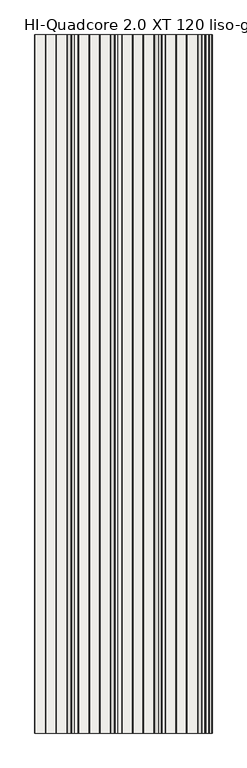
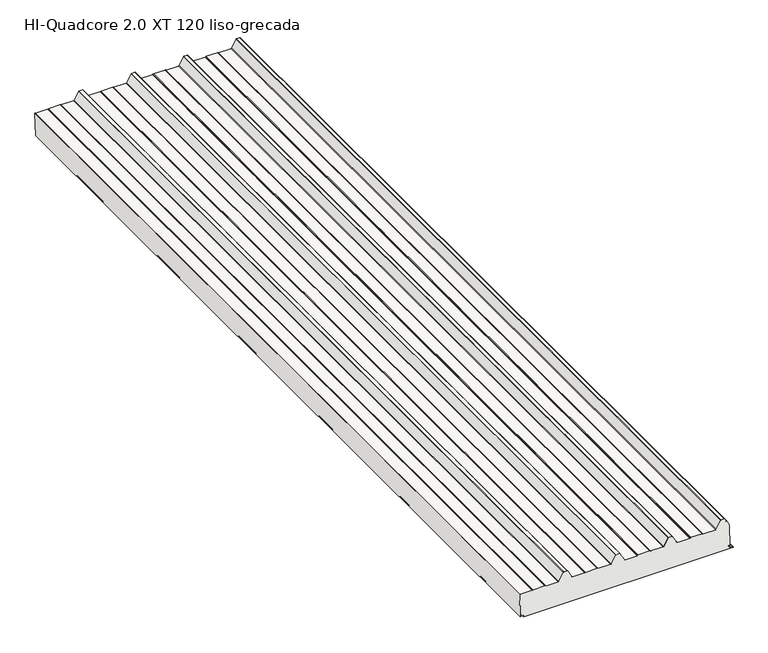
"""IFC4 building model written with IfcOpenShell, lengths in millimetres: slab geometry, Panel_HI_QuadCore 2.0 XT-XT DUAL_liso-grecada : HI-Quadcore 2.0 XT 120 liso-grecada."""

from ifc_helpers import new_model, si_unit, frame, origin, place, context, project, spatial, polyline, circle_curve, source, transform, mapped, element, save
from ifc_brep_helpers import plane_surface, cylinder_surface, revolved_surface, advanced_brep


def hi_quadcore_2_0_xt_120_liso_grecada_2a128a65(model_context):
    return source(origin(), model_context, "Body", "AdvancedBrep", [
        advanced_brep(
        [(531.036551, 0.0, 121.2667387), (516.0442453, 0.0, 147.9197266), (516.033201, 0.0, 145.939301), (515.1031555, 0.0, 144.3282068), (514.4103128, 0.0, 144.7281681), (515.3403583, 0.0, 146.3392623), (515.3469849, 0.0, 147.5275176), (509.4120152, 0.0, 158.0785747), (507.4945491, 0.0, 159.2), (492.1184247, 0.0, 159.2), (490.1940602, 0.0, 158.0662182), (469.7447946, 0.0, 121.1583504), (466.4208923, 0.0, 119.2), (407.5510443, 0.0, 119.2), (405.671532, 0.0, 119.6973596), (403.5370944, 0.0, 120.912055), (402.4489557, 0.0, 121.2), (347.5510443, 0.0, 121.2), (346.4629056, 0.0, 120.912055), (344.328468, 0.0, 119.6973596), (342.4489557, 0.0, 119.2), (284.2545425, 0.0, 119.2), (280.9425554, 0.0, 121.1370073), (260.1629237, 0.0, 158.0785747), (258.2454575, 0.0, 159.2), (241.7545425, 0.0, 159.2), (239.8370763, 0.0, 158.0785747), (219.0574446, 0.0, 121.1370073), (215.7454575, 0.0, 119.2), (157.5510443, 0.0, 119.2), (155.671532, 0.0, 119.6973596), (153.5370944, 0.0, 120.912055), (152.4489557, 0.0, 121.2), (97.5510443, 0.0, 121.2), (96.4629056, 0.0, 120.912055), (94.328468, 0.0, 119.6973596), (92.4489557, 0.0, 119.2), (34.2545425, 0.0, 119.2), (30.9425554, 0.0, 121.1370073), (10.1629237, 0.0, 158.0785747), (8.2454575, 0.0, 159.2), (-8.2454575, 0.0, 159.2), (-10.1629237, 0.0, 158.0785747), (-30.9425554, 0.0, 121.1370073), (-34.2545425, 0.0, 119.2), (-92.4489557, 0.0, 119.2), (-94.328468, 0.0, 119.6973596), (-96.4629056, 0.0, 120.912055), (-97.5510443, 0.0, 121.2), (-152.4489557, 0.0, 121.2), (-153.5370944, 0.0, 120.912055), (-155.671532, 0.0, 119.6973596), (-157.5510443, 0.0, 119.2), (-215.7454575, 0.0, 119.2), (-219.0574446, 0.0, 121.1370073), (-239.8370763, 0.0, 158.0785747), (-241.7545425, 0.0, 159.2), (-258.2454575, 0.0, 159.2), (-260.1629237, 0.0, 158.0785747), (-280.9425554, 0.0, 121.1370073), (-284.2545425, 0.0, 119.2), (-342.4489557, 0.0, 119.2), (-344.328468, 0.0, 119.6973596), (-346.4629056, 0.0, 120.912055), (-347.5510443, 0.0, 121.2), (-402.4489557, 0.0, 121.2), (-403.5370944, 0.0, 120.912055), (-405.671532, 0.0, 119.6973596), (-407.5510443, 0.0, 119.2), (-465.3454575, 0.0, 119.2), (-468.6947225, 0.0, 121.2048889), (-465.5377778, 0.0, 7.0308356), (-464.1542269, 0.0, 7.2414508), (-464.1543582, 0.0, 11.9758652), (-463.5686109, 0.0, 13.390095), (-461.4624671, 0.0, 15.4963556), (-460.8967817, 0.0, 14.9306702), (-463.0029098, 0.0, 12.8244253), (-463.3543582, 0.0, 11.9758874), (-463.3542572, 0.0, 8.3337062), (-462.2418956, 0.0, 7.1369439), (-451.8231384, 0.0, 6.3740035), (-449.2967368, 0.0, 3.5874804), (-449.2966921, 0.0, 1.9756233), (-448.0966592, 0.0, 0.7756565), (547.9136557, 0.0, 0.8032689), (549.1046782, 0.0, 2.0032686), (549.104653, 0.0, 2.9118044), (547.9581323, 0.0, 4.1105786), (536.1323972, 0.0, 5.0061949), (533.5438482, 0.0, 7.7981217), (533.5455151, 0.0, 11.7461321), (533.1910778, 0.0, 12.5938038), (531.7779905, 0.0, 14.013532), (532.3436759, 0.0, 14.5792175), (533.757913, 0.0, 13.1650588), (-468.6947225, 4000.0, 121.2048889), (-465.3454575, 4000.0, 119.2), (-407.5510443, 4000.0, 119.2), (-405.671532, 4000.0, 119.6973596), (-403.5370944, 4000.0, 120.912055), (-402.4489557, 4000.0, 121.2), (-347.5510443, 4000.0, 121.2), (-346.4629056, 4000.0, 120.912055), (-344.328468, 4000.0, 119.6973596), (-342.4489557, 4000.0, 119.2), (-284.2545425, 4000.0, 119.2), (-280.9425554, 4000.0, 121.1370073), (-260.1629237, 4000.0, 158.0785747), (-258.2454575, 4000.0, 159.2), (-241.7545425, 4000.0, 159.2), (-239.8370763, 4000.0, 158.0785747), (-219.0574446, 4000.0, 121.1370073), (-215.7454575, 4000.0, 119.2), (-157.5510443, 4000.0, 119.2), (-155.671532, 4000.0, 119.6973596), (-153.5370944, 4000.0, 120.912055), (-152.4489557, 4000.0, 121.2), (-97.5510443, 4000.0, 121.2), (-96.4629056, 4000.0, 120.912055), (-94.328468, 4000.0, 119.6973596), (-92.4489557, 4000.0, 119.2), (-34.2545425, 4000.0, 119.2), (-30.9425554, 4000.0, 121.1370073), (-10.1629237, 4000.0, 158.0785747), (-8.2454575, 4000.0, 159.2), (8.2454575, 4000.0, 159.2), (10.1629237, 4000.0, 158.0785747), (30.9425554, 4000.0, 121.1370073), (34.2545425, 4000.0, 119.2), (92.4489557, 4000.0, 119.2), (94.328468, 4000.0, 119.6973596), (96.4629056, 4000.0, 120.912055), (97.5510443, 4000.0, 121.2), (152.4489557, 4000.0, 121.2), (153.5370944, 4000.0, 120.912055), (155.671532, 4000.0, 119.6973596), (157.5510443, 4000.0, 119.2), (215.7454575, 4000.0, 119.2), (219.0574446, 4000.0, 121.1370073), (239.8370763, 4000.0, 158.0785747), (241.7545425, 4000.0, 159.2), (258.2454575, 4000.0, 159.2), (260.1629237, 4000.0, 158.0785747), (280.9425554, 4000.0, 121.1370073), (284.2545425, 4000.0, 119.2), (342.4489557, 4000.0, 119.2), (344.328468, 4000.0, 119.6973596), (346.4629056, 4000.0, 120.912055), (347.5510443, 4000.0, 121.2), (402.4489557, 4000.0, 121.2), (403.5370944, 4000.0, 120.912055), (405.671532, 4000.0, 119.6973596), (407.5510443, 4000.0, 119.2), (466.4208923, 4000.0, 119.2), (469.7447946, 4000.0, 121.1583504), (490.1940602, 4000.0, 158.0662182), (492.1184247, 4000.0, 159.2), (507.4945491, 4000.0, 159.2), (509.4120152, 4000.0, 158.0785747), (515.3469849, 4000.0, 147.5275176), (515.3403583, 4000.0, 146.3392623), (514.4103128, 4000.0, 144.7281681), (515.1031555, 4000.0, 144.3282068), (516.033201, 4000.0, 145.939301), (516.0442453, 4000.0, 147.9197266), (531.036551, 4000.0, 121.2667387), (533.757913, 4000.0, 13.1650588), (532.3436759, 4000.0, 14.5792175), (531.7779905, 4000.0, 14.013532), (533.1910778, 4000.0, 12.5938038), (533.5455151, 4000.0, 11.7461321), (533.5438482, 4000.0, 7.7981217), (536.1323972, 4000.0, 5.0061949), (547.9581323, 4000.0, 4.1105786), (549.104653, 4000.0, 2.9118044), (549.1046782, 4000.0, 2.0032686), (547.9136557, 4000.0, 0.8032689), (-448.0966592, 4000.0, 0.7756565), (-449.2966921, 4000.0, 1.9756233), (-449.2967368, 4000.0, 3.5874804), (-451.8231384, 4000.0, 6.3740035), (-462.2418956, 4000.0, 7.1369439), (-463.3542572, 4000.0, 8.3337062), (-463.3543582, 4000.0, 11.9758874), (-463.0029098, 4000.0, 12.8244253), (-460.8967817, 4000.0, 14.9306702), (-461.4624671, 4000.0, 15.4963556), (-463.5686109, 4000.0, 13.390095), (-464.1543582, 4000.0, 11.9758652), (-464.1542269, 4000.0, 7.2414508), (-465.5377778, 4000.0, 7.0308356)],
        [
            (0, 1),
            (1, 2, circle_curve(frame((514.3010942, 0.0, 146.9392041), z_axis=(0.0, 1.0, 0.0), x_axis=(1.0, 0.0, 0.0)), 2.0)),
            (2, 3),
            (3, 4),
            (4, 5),
            (5, 6, circle_curve(frame((514.3010942, 0.0, 146.9392041), z_axis=(0.0, -1.0, 0.0), x_axis=(1.0, 0.0, 0.0)), 1.2)),
            (6, 7),
            (7, 8, circle_curve(frame((507.4945491, 0.0, 157.0), z_axis=(0.0, -1.0, 0.0), x_axis=(1.0, 0.0, 0.0)), 2.2)),
            (8, 9),
            (9, 10, circle_curve(frame((492.1184247, 0.0, 157.0), z_axis=(0.0, -1.0, 0.0), x_axis=(1.0, 0.0, 0.0)), 2.2)),
            (10, 11),
            (11, 12, circle_curve(frame((466.4208923, 0.0, 123.0), z_axis=(0.0, 1.0, 0.0), x_axis=(1.0, 0.0, 0.0)), 3.8)),
            (12, 13),
            (13, 14, circle_curve(frame((407.5510443, 0.0, 123.0), z_axis=(0.0, 1.0, 0.0), x_axis=(1.0, 0.0, 0.0)), 3.8)),
            (14, 15),
            (15, 16, circle_curve(frame((402.4489557, 0.0, 119.0), z_axis=(0.0, -1.0, 0.0), x_axis=(1.0, 0.0, 0.0)), 2.2)),
            (16, 17),
            (17, 18, circle_curve(frame((347.5510443, 0.0, 119.0), z_axis=(0.0, -1.0, 0.0), x_axis=(1.0, 0.0, 0.0)), 2.2)),
            (18, 19),
            (19, 20, circle_curve(frame((342.4489557, 0.0, 123.0), z_axis=(0.0, 1.0, 0.0), x_axis=(1.0, 0.0, 0.0)), 3.8)),
            (20, 21),
            (21, 22, circle_curve(frame((284.2545425, 0.0, 123.0), z_axis=(0.0, 1.0, 0.0), x_axis=(1.0, 0.0, 0.0)), 3.8)),
            (22, 23),
            (23, 24, circle_curve(frame((258.2454575, 0.0, 157.0), z_axis=(0.0, -1.0, 0.0), x_axis=(1.0, 0.0, 0.0)), 2.2)),
            (24, 25),
            (25, 26, circle_curve(frame((241.7545425, 0.0, 157.0), z_axis=(0.0, -1.0, 0.0), x_axis=(1.0, 0.0, 0.0)), 2.2)),
            (26, 27),
            (27, 28, circle_curve(frame((215.7454575, 0.0, 123.0), z_axis=(0.0, 1.0, 0.0), x_axis=(1.0, 0.0, 0.0)), 3.8)),
            (28, 29),
            (29, 30, circle_curve(frame((157.5510443, 0.0, 123.0), z_axis=(0.0, 1.0, 0.0), x_axis=(1.0, 0.0, 0.0)), 3.8)),
            (30, 31),
            (31, 32, circle_curve(frame((152.4489557, 0.0, 119.0), z_axis=(0.0, -1.0, 0.0), x_axis=(1.0, 0.0, 0.0)), 2.2)),
            (32, 33),
            (33, 34, circle_curve(frame((97.5510443, 0.0, 119.0), z_axis=(0.0, -1.0, 0.0), x_axis=(1.0, 0.0, 0.0)), 2.2)),
            (34, 35),
            (35, 36, circle_curve(frame((92.4489557, 0.0, 123.0), z_axis=(0.0, 1.0, 0.0), x_axis=(1.0, 0.0, 0.0)), 3.8)),
            (36, 37),
            (37, 38, circle_curve(frame((34.2545425, 0.0, 123.0), z_axis=(0.0, 1.0, 0.0), x_axis=(1.0, 0.0, 0.0)), 3.8)),
            (38, 39),
            (39, 40, circle_curve(frame((8.2454575, 0.0, 157.0), z_axis=(0.0, -1.0, 0.0), x_axis=(1.0, 0.0, 0.0)), 2.2)),
            (40, 41),
            (41, 42, circle_curve(frame((-8.2454575, 0.0, 157.0), z_axis=(0.0, -1.0, 0.0), x_axis=(1.0, 0.0, 0.0)), 2.2)),
            (42, 43),
            (43, 44, circle_curve(frame((-34.2545425, 0.0, 123.0), z_axis=(0.0, 1.0, 0.0), x_axis=(1.0, 0.0, 0.0)), 3.8)),
            (44, 45),
            (45, 46, circle_curve(frame((-92.4489557, 0.0, 123.0), z_axis=(0.0, 1.0, 0.0), x_axis=(1.0, 0.0, 0.0)), 3.8)),
            (46, 47),
            (47, 48, circle_curve(frame((-97.5510443, 0.0, 119.0), z_axis=(0.0, -1.0, 0.0), x_axis=(1.0, 0.0, 0.0)), 2.2)),
            (48, 49),
            (49, 50, circle_curve(frame((-152.4489557, 0.0, 119.0), z_axis=(0.0, -1.0, 0.0), x_axis=(1.0, 0.0, 0.0)), 2.2)),
            (50, 51),
            (51, 52, circle_curve(frame((-157.5510443, 0.0, 123.0), z_axis=(0.0, 1.0, 0.0), x_axis=(1.0, 0.0, 0.0)), 3.8)),
            (52, 53),
            (53, 54, circle_curve(frame((-215.7454575, 0.0, 123.0), z_axis=(0.0, 1.0, 0.0), x_axis=(1.0, 0.0, 0.0)), 3.8)),
            (54, 55),
            (55, 56, circle_curve(frame((-241.7545425, 0.0, 157.0), z_axis=(0.0, -1.0, 0.0), x_axis=(1.0, 0.0, 0.0)), 2.2)),
            (56, 57),
            (57, 58, circle_curve(frame((-258.2454575, 0.0, 157.0), z_axis=(0.0, -1.0, 0.0), x_axis=(1.0, 0.0, 0.0)), 2.2)),
            (58, 59),
            (59, 60, circle_curve(frame((-284.2545425, 0.0, 123.0), z_axis=(0.0, 1.0, 0.0), x_axis=(1.0, 0.0, 0.0)), 3.8)),
            (60, 61),
            (61, 62, circle_curve(frame((-342.4489557, 0.0, 123.0), z_axis=(0.0, 1.0, 0.0), x_axis=(1.0, 0.0, 0.0)), 3.8)),
            (62, 63),
            (63, 64, circle_curve(frame((-347.5510443, 0.0, 119.0), z_axis=(0.0, -1.0, 0.0), x_axis=(1.0, 0.0, 0.0)), 2.2)),
            (64, 65),
            (65, 66, circle_curve(frame((-402.4489557, 0.0, 119.0), z_axis=(0.0, -1.0, 0.0), x_axis=(1.0, 0.0, 0.0)), 2.2)),
            (66, 67),
            (67, 68, circle_curve(frame((-407.5510443, 0.0, 123.0), z_axis=(0.0, 1.0, 0.0), x_axis=(1.0, 0.0, 0.0)), 3.8)),
            (68, 69),
            (69, 70, circle_curve(frame((-465.3454575, 0.0, 123.0), z_axis=(0.0, 1.0, 0.0), x_axis=(1.0, 0.0, 0.0)), 3.8)),
            (70, 71),
            (71, 72),
            (72, 73),
            (73, 74, circle_curve(frame((-462.1543582, 0.0, 11.9759207), z_axis=(0.0, 1.0, 0.0), x_axis=(1.0, 0.0, 0.0)), 2.0)),
            (74, 75),
            (75, 76),
            (76, 77),
            (77, 78, circle_curve(frame((-462.1543582, 0.0, 11.9759207), z_axis=(0.0, -1.0, 0.0), x_axis=(1.0, 0.0, 0.0)), 1.2)),
            (78, 79),
            (79, 80, circle_curve(frame((-462.1542572, 0.0, 8.3337394), z_axis=(0.0, -1.0, 0.0), x_axis=(1.0, 0.0, 0.0)), 1.2)),
            (80, 81),
            (81, 82, circle_curve(frame((-452.0967368, 0.0, 3.5874027), z_axis=(0.0, 1.0, 0.0), x_axis=(1.0, 0.0, 0.0)), 2.8)),
            (82, 83),
            (83, 84, circle_curve(frame((-448.0966924, 0.0, 1.9756562), z_axis=(0.0, -1.0, 0.0), x_axis=(1.0, 0.0, 0.0)), 1.1999997)),
            (84, 85),
            (85, 86, circle_curve(frame((547.9046782, 0.0, 2.0032353), z_axis=(0.0, -1.0, 0.0), x_axis=(1.0, 0.0, 0.0)), 1.2)),
            (86, 87),
            (87, 88, circle_curve(frame((547.9046533, 0.0, 2.9117711), z_axis=(0.0, -1.0, 0.0), x_axis=(1.0, 0.0, 0.0)), 1.1999997)),
            (88, 89),
            (89, 90, circle_curve(frame((536.3438482, 0.0, 7.7981993), z_axis=(0.0, 1.0, 0.0), x_axis=(1.0, 0.0, 0.0)), 2.8)),
            (90, 91),
            (91, 92, circle_curve(frame((532.3429645, 0.0, 11.7412455), z_axis=(0.0, -1.0, 0.0), x_axis=(1.0, 0.0, 0.0)), 1.2025605)),
            (92, 93),
            (93, 94),
            (94, 95),
            (95, 0),
            (96, 97, circle_curve(frame((-465.3454575, 4000.0, 123.0), z_axis=(0.0, -1.0, 0.0), x_axis=(1.0, 0.0, 0.0)), 3.8)),
            (97, 98),
            (98, 99, circle_curve(frame((-407.5510443, 4000.0, 123.0), z_axis=(0.0, -1.0, 0.0), x_axis=(1.0, 0.0, 0.0)), 3.8)),
            (99, 100),
            (100, 101, circle_curve(frame((-402.4489557, 4000.0, 119.0), z_axis=(0.0, 1.0, 0.0), x_axis=(1.0, 0.0, 0.0)), 2.2)),
            (101, 102),
            (102, 103, circle_curve(frame((-347.5510443, 4000.0, 119.0), z_axis=(0.0, 1.0, 0.0), x_axis=(1.0, 0.0, 0.0)), 2.2)),
            (103, 104),
            (104, 105, circle_curve(frame((-342.4489557, 4000.0, 123.0), z_axis=(0.0, -1.0, 0.0), x_axis=(1.0, 0.0, 0.0)), 3.8)),
            (105, 106),
            (106, 107, circle_curve(frame((-284.2545425, 4000.0, 123.0), z_axis=(0.0, -1.0, 0.0), x_axis=(1.0, 0.0, 0.0)), 3.8)),
            (107, 108),
            (108, 109, circle_curve(frame((-258.2454575, 4000.0, 157.0), z_axis=(0.0, 1.0, 0.0), x_axis=(1.0, 0.0, 0.0)), 2.2)),
            (109, 110),
            (110, 111, circle_curve(frame((-241.7545425, 4000.0, 157.0), z_axis=(0.0, 1.0, 0.0), x_axis=(1.0, 0.0, 0.0)), 2.2)),
            (111, 112),
            (112, 113, circle_curve(frame((-215.7454575, 4000.0, 123.0), z_axis=(0.0, -1.0, 0.0), x_axis=(1.0, 0.0, 0.0)), 3.8)),
            (113, 114),
            (114, 115, circle_curve(frame((-157.5510443, 4000.0, 123.0), z_axis=(0.0, -1.0, 0.0), x_axis=(1.0, 0.0, 0.0)), 3.8)),
            (115, 116),
            (116, 117, circle_curve(frame((-152.4489557, 4000.0, 119.0), z_axis=(0.0, 1.0, 0.0), x_axis=(1.0, 0.0, 0.0)), 2.2)),
            (117, 118),
            (118, 119, circle_curve(frame((-97.5510443, 4000.0, 119.0), z_axis=(0.0, 1.0, 0.0), x_axis=(1.0, 0.0, 0.0)), 2.2)),
            (119, 120),
            (120, 121, circle_curve(frame((-92.4489557, 4000.0, 123.0), z_axis=(0.0, -1.0, 0.0), x_axis=(1.0, 0.0, 0.0)), 3.8)),
            (121, 122),
            (122, 123, circle_curve(frame((-34.2545425, 4000.0, 123.0), z_axis=(0.0, -1.0, 0.0), x_axis=(1.0, 0.0, 0.0)), 3.8)),
            (123, 124),
            (124, 125, circle_curve(frame((-8.2454575, 4000.0, 157.0), z_axis=(0.0, 1.0, 0.0), x_axis=(1.0, 0.0, 0.0)), 2.2)),
            (125, 126),
            (126, 127, circle_curve(frame((8.2454575, 4000.0, 157.0), z_axis=(0.0, 1.0, 0.0), x_axis=(1.0, 0.0, 0.0)), 2.2)),
            (127, 128),
            (128, 129, circle_curve(frame((34.2545425, 4000.0, 123.0), z_axis=(0.0, -1.0, 0.0), x_axis=(1.0, 0.0, 0.0)), 3.8)),
            (129, 130),
            (130, 131, circle_curve(frame((92.4489557, 4000.0, 123.0), z_axis=(0.0, -1.0, 0.0), x_axis=(1.0, 0.0, 0.0)), 3.8)),
            (131, 132),
            (132, 133, circle_curve(frame((97.5510443, 4000.0, 119.0), z_axis=(0.0, 1.0, 0.0), x_axis=(1.0, 0.0, 0.0)), 2.2)),
            (133, 134),
            (134, 135, circle_curve(frame((152.4489557, 4000.0, 119.0), z_axis=(0.0, 1.0, 0.0), x_axis=(1.0, 0.0, 0.0)), 2.2)),
            (135, 136),
            (136, 137, circle_curve(frame((157.5510443, 4000.0, 123.0), z_axis=(0.0, -1.0, 0.0), x_axis=(1.0, 0.0, 0.0)), 3.8)),
            (137, 138),
            (138, 139, circle_curve(frame((215.7454575, 4000.0, 123.0), z_axis=(0.0, -1.0, 0.0), x_axis=(1.0, 0.0, 0.0)), 3.8)),
            (139, 140),
            (140, 141, circle_curve(frame((241.7545425, 4000.0, 157.0), z_axis=(0.0, 1.0, 0.0), x_axis=(1.0, 0.0, 0.0)), 2.2)),
            (141, 142),
            (142, 143, circle_curve(frame((258.2454575, 4000.0, 157.0), z_axis=(0.0, 1.0, 0.0), x_axis=(1.0, 0.0, 0.0)), 2.2)),
            (143, 144),
            (144, 145, circle_curve(frame((284.2545425, 4000.0, 123.0), z_axis=(0.0, -1.0, 0.0), x_axis=(1.0, 0.0, 0.0)), 3.8)),
            (145, 146),
            (146, 147, circle_curve(frame((342.4489557, 4000.0, 123.0), z_axis=(0.0, -1.0, 0.0), x_axis=(1.0, 0.0, 0.0)), 3.8)),
            (147, 148),
            (148, 149, circle_curve(frame((347.5510443, 4000.0, 119.0), z_axis=(0.0, 1.0, 0.0), x_axis=(1.0, 0.0, 0.0)), 2.2)),
            (149, 150),
            (150, 151, circle_curve(frame((402.4489557, 4000.0, 119.0), z_axis=(0.0, 1.0, 0.0), x_axis=(1.0, 0.0, 0.0)), 2.2)),
            (151, 152),
            (152, 153, circle_curve(frame((407.5510443, 4000.0, 123.0), z_axis=(0.0, -1.0, 0.0), x_axis=(1.0, 0.0, 0.0)), 3.8)),
            (153, 154),
            (154, 155, circle_curve(frame((466.4208923, 4000.0, 123.0), z_axis=(0.0, -1.0, 0.0), x_axis=(1.0, 0.0, 0.0)), 3.8)),
            (155, 156),
            (156, 157, circle_curve(frame((492.1184247, 4000.0, 157.0), z_axis=(0.0, 1.0, 0.0), x_axis=(1.0, 0.0, 0.0)), 2.2)),
            (157, 158),
            (158, 159, circle_curve(frame((507.4945491, 4000.0, 157.0), z_axis=(0.0, 1.0, 0.0), x_axis=(1.0, 0.0, 0.0)), 2.2)),
            (159, 160),
            (160, 161, circle_curve(frame((514.3010942, 4000.0, 146.9392041), z_axis=(0.0, 1.0, 0.0), x_axis=(1.0, 0.0, 0.0)), 1.2)),
            (161, 162),
            (162, 163),
            (163, 164),
            (164, 165, circle_curve(frame((514.3010942, 4000.0, 146.9392041), z_axis=(0.0, -1.0, 0.0), x_axis=(1.0, 0.0, 0.0)), 2.0)),
            (165, 166),
            (166, 167),
            (167, 168),
            (168, 169),
            (169, 170),
            (170, 171, circle_curve(frame((532.3429645, 4000.0, 11.7412455), z_axis=(0.0, 1.0, 0.0), x_axis=(1.0, 0.0, 0.0)), 1.2025605)),
            (171, 172),
            (172, 173, circle_curve(frame((536.3438482, 4000.0, 7.7981993), z_axis=(0.0, -1.0, 0.0), x_axis=(1.0, 0.0, 0.0)), 2.8)),
            (173, 174),
            (174, 175, circle_curve(frame((547.9046533, 4000.0, 2.9117711), z_axis=(0.0, 1.0, 0.0), x_axis=(1.0, 0.0, 0.0)), 1.1999997)),
            (175, 176),
            (176, 177, circle_curve(frame((547.9046782, 4000.0, 2.0032353), z_axis=(0.0, 1.0, 0.0), x_axis=(1.0, 0.0, 0.0)), 1.2)),
            (177, 178),
            (178, 179, circle_curve(frame((-448.0966924, 4000.0, 1.9756562), z_axis=(0.0, 1.0, 0.0), x_axis=(1.0, 0.0, 0.0)), 1.1999997)),
            (179, 180),
            (180, 181, circle_curve(frame((-452.0967368, 4000.0, 3.5874027), z_axis=(0.0, -1.0, 0.0), x_axis=(1.0, 0.0, 0.0)), 2.8)),
            (181, 182),
            (182, 183, circle_curve(frame((-462.1542572, 4000.0, 8.3337394), z_axis=(0.0, 1.0, 0.0), x_axis=(1.0, 0.0, 0.0)), 1.2)),
            (183, 184),
            (184, 185, circle_curve(frame((-462.1543582, 4000.0, 11.9759207), z_axis=(0.0, 1.0, 0.0), x_axis=(1.0, 0.0, 0.0)), 1.2)),
            (185, 186),
            (186, 187),
            (187, 188),
            (188, 189, circle_curve(frame((-462.1543582, 4000.0, 11.9759207), z_axis=(0.0, -1.0, 0.0), x_axis=(1.0, 0.0, 0.0)), 2.0)),
            (189, 190),
            (190, 191),
            (191, 96),
            (0, 166),
            (165, 1),
            (164, 2),
            (163, 3),
            (162, 4),
            (161, 5),
            (160, 6),
            (159, 7),
            (158, 8),
            (157, 9),
            (156, 10),
            (155, 11),
            (154, 12),
            (153, 13),
            (152, 14),
            (151, 15),
            (150, 16),
            (149, 17),
            (148, 18),
            (147, 19),
            (146, 20),
            (145, 21),
            (144, 22),
            (143, 23),
            (142, 24),
            (141, 25),
            (140, 26),
            (139, 27),
            (138, 28),
            (137, 29),
            (136, 30),
            (135, 31),
            (134, 32),
            (133, 33),
            (132, 34),
            (131, 35),
            (130, 36),
            (129, 37),
            (128, 38),
            (127, 39),
            (126, 40),
            (125, 41),
            (124, 42),
            (123, 43),
            (122, 44),
            (121, 45),
            (120, 46),
            (119, 47),
            (118, 48),
            (117, 49),
            (116, 50),
            (115, 51),
            (114, 52),
            (113, 53),
            (112, 54),
            (111, 55),
            (110, 56),
            (109, 57),
            (108, 58),
            (107, 59),
            (106, 60),
            (105, 61),
            (104, 62),
            (103, 63),
            (102, 64),
            (101, 65),
            (100, 66),
            (99, 67),
            (98, 68),
            (97, 69),
            (96, 70),
            (191, 71),
            (95, 167),
            (76, 186),
            (185, 77),
            (184, 78),
            (183, 79),
            (182, 80),
            (181, 81),
            (180, 82),
            (179, 83),
            (86, 176),
            (175, 87),
            (174, 88),
            (173, 89),
            (172, 90),
            (171, 91),
            (75, 187),
            (72, 190),
            (189, 73),
            (188, 74),
            (170, 92),
            (169, 93),
            (168, 94),
            (178, 84),
            (177, 85),
        ],
        [
            plane_surface(frame((531.1187881, 0.0, 118.0), z_axis=(0.0, -1.0, 0.0), x_axis=(1.0, 0.0, 0.0))),
            plane_surface(frame((531.1187881, 4000.0, 118.0), z_axis=(0.0, 1.0, 0.0), x_axis=(-1.0, 0.0, 0.0))),
            plane_surface(frame((531.036551, 0.0, 121.2667387), z_axis=(0.8715755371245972, 0.0, 0.4902612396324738), x_axis=(0.0, 1.0, 0.0))),
            revolved_surface(polyline([(516.3010942, 4000.0, 146.9392041), (516.3010942, 0.0, 146.9392041)]), (514.3010942, 4000.0, 146.9392041), (0.0, 1.0, 0.0)),
            plane_surface(frame((516.033201, 0.0, 145.939301), z_axis=(-0.8660533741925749, 0.0, 0.49995155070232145), x_axis=(0.0, 1.0, 0.0))),
            plane_surface(frame((515.1031555, 0.0, 144.3282068), z_axis=(0.4999515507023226, 0.0, 0.8660533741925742), x_axis=(0.0, 1.0, 0.0))),
            plane_surface(frame((514.4103128, 0.0, 144.7281681), z_axis=(0.8660533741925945, 0.0, -0.4999515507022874), x_axis=(0.0, 1.0, 0.0))),
            cylinder_surface(frame((514.3010942, 4000.0, 146.9392041), z_axis=(0.0, -1.0, 0.0), x_axis=(1.0, 0.0, 0.0)), 1.2),
            plane_surface(frame((515.3469849, 0.0, 147.5275176), z_axis=(0.8715755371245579, 0.0, 0.4902612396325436), x_axis=(0.0, 1.0, 0.0))),
            cylinder_surface(frame((507.4945491, 4000.0, 157.0), z_axis=(0.0, -1.0, 0.0), x_axis=(1.0, 0.0, 0.0)), 2.2),
            plane_surface(frame((507.4945491, 0.0, 159.2), z_axis=(0.0, 0.0, 1.0), x_axis=(0.0, 1.0, 0.0))),
            cylinder_surface(frame((492.1184247, 4000.0, 157.0), z_axis=(0.0, -1.0, 0.0), x_axis=(1.0, 0.0, 0.0)), 2.2),
            plane_surface(frame((490.1940602, 0.0, 158.0662182), z_axis=(-0.8747111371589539, 0.0, 0.48464463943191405), x_axis=(0.0, 1.0, 0.0))),
            revolved_surface(polyline([(470.2208923, 4000.0, 123.0), (470.2208923, 0.0, 123.0)]), (466.4208923, 4000.0, 123.0), (0.0, 1.0, 0.0)),
            plane_surface(frame((466.4208923, 0.0, 119.2), z_axis=(0.0, 0.0, 1.0), x_axis=(0.0, 1.0, 0.0))),
            revolved_surface(polyline([(411.3510443, 4000.0, 123.0), (411.3510443, 0.0, 123.0)]), (407.5510443, 4000.0, 123.0), (0.0, 1.0, 0.0)),
            plane_surface(frame((405.671532, 0.0, 119.6973596), z_axis=(0.49460850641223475, 0.0, 0.8691158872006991), x_axis=(0.0, 1.0, 0.0))),
            cylinder_surface(frame((402.4489557, 4000.0, 119.0), z_axis=(0.0, -1.0, 0.0), x_axis=(1.0, 0.0, 0.0)), 2.2),
            plane_surface(frame((402.4489557, 0.0, 121.2), z_axis=(0.0, 0.0, 1.0), x_axis=(0.0, 1.0, 0.0))),
            cylinder_surface(frame((347.5510443, 4000.0, 119.0), z_axis=(0.0, -1.0, 0.0), x_axis=(1.0, 0.0, 0.0)), 2.2),
            plane_surface(frame((346.4629056, 0.0, 120.912055), z_axis=(-0.49460850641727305, 0.0, 0.8691158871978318), x_axis=(0.0, 1.0, 0.0))),
            revolved_surface(polyline([(346.2489557, 4000.0, 123.0), (346.2489557, 0.0, 123.0)]), (342.4489557, 4000.0, 123.0), (0.0, 1.0, 0.0)),
            plane_surface(frame((342.4489557, 0.0, 119.2), z_axis=(0.0, 0.0, 1.0), x_axis=(0.0, 1.0, 0.0))),
            revolved_surface(polyline([(288.0545425, 4000.0, 123.0), (288.0545425, 0.0, 123.0)]), (284.2545425, 4000.0, 123.0), (0.0, 1.0, 0.0)),
            plane_surface(frame((280.9425554, 0.0, 121.1370073), z_axis=(0.8715755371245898, 0.0, 0.4902612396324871), x_axis=(0.0, 1.0, 0.0))),
            cylinder_surface(frame((258.2454575, 4000.0, 157.0), z_axis=(0.0, -1.0, 0.0), x_axis=(1.0, 0.0, 0.0)), 2.2),
            plane_surface(frame((258.2454575, 0.0, 159.2), z_axis=(0.0, 0.0, 1.0), x_axis=(0.0, 1.0, 0.0))),
            cylinder_surface(frame((241.7545425, 4000.0, 157.0), z_axis=(0.0, -1.0, 0.0), x_axis=(1.0, 0.0, 0.0)), 2.2),
            plane_surface(frame((239.8370763, 0.0, 158.0785747), z_axis=(-0.8715755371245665, 0.0, 0.49026123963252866), x_axis=(0.0, 1.0, 0.0))),
            revolved_surface(polyline([(219.5454575, 4000.0, 123.0), (219.5454575, 0.0, 123.0)]), (215.7454575, 4000.0, 123.0), (0.0, 1.0, 0.0)),
            plane_surface(frame((215.7454575, 0.0, 119.2), z_axis=(0.0, 0.0, 1.0), x_axis=(0.0, 1.0, 0.0))),
            revolved_surface(polyline([(161.3510443, 4000.0, 123.0), (161.3510443, 0.0, 123.0)]), (157.5510443, 4000.0, 123.0), (0.0, 1.0, 0.0)),
            plane_surface(frame((155.671532, 0.0, 119.6973596), z_axis=(0.49460850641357, 0.0, 0.8691158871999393), x_axis=(0.0, 1.0, 0.0))),
            cylinder_surface(frame((152.4489557, 4000.0, 119.0), z_axis=(0.0, -1.0, 0.0), x_axis=(1.0, 0.0, 0.0)), 2.2),
            plane_surface(frame((152.4489557, 0.0, 121.2), z_axis=(0.0, 0.0, 1.0), x_axis=(0.0, 1.0, 0.0))),
            cylinder_surface(frame((97.5510443, 4000.0, 119.0), z_axis=(0.0, -1.0, 0.0), x_axis=(1.0, 0.0, 0.0)), 2.2),
            plane_surface(frame((96.4629056, 0.0, 120.912055), z_axis=(-0.4946085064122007, 0.0, 0.8691158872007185), x_axis=(0.0, 1.0, 0.0))),
            revolved_surface(polyline([(96.2489557, 4000.0, 123.0), (96.2489557, 0.0, 123.0)]), (92.4489557, 4000.0, 123.0), (0.0, 1.0, 0.0)),
            plane_surface(frame((92.4489557, 0.0, 119.2), z_axis=(0.0, 0.0, 1.0), x_axis=(0.0, 1.0, 0.0))),
            revolved_surface(polyline([(38.0545425, 4000.0, 123.0), (38.0545425, 0.0, 123.0)]), (34.2545425, 4000.0, 123.0), (0.0, 1.0, 0.0)),
            plane_surface(frame((30.9425554, 0.0, 121.1370073), z_axis=(0.8715755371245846, 0.0, 0.49026123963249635), x_axis=(0.0, 1.0, 0.0))),
            cylinder_surface(frame((8.2454575, 4000.0, 157.0), z_axis=(0.0, -1.0, 0.0), x_axis=(1.0, 0.0, 0.0)), 2.2),
            plane_surface(frame((8.2454575, 0.0, 159.2), z_axis=(0.0, 0.0, 1.0), x_axis=(0.0, 1.0, 0.0))),
            cylinder_surface(frame((-8.2454575, 4000.0, 157.0), z_axis=(0.0, -1.0, 0.0), x_axis=(1.0, 0.0, 0.0)), 2.2),
            plane_surface(frame((-10.1629237, 0.0, 158.0785747), z_axis=(-0.8715755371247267, 0.0, 0.49026123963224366), x_axis=(0.0, 1.0, 0.0))),
            revolved_surface(polyline([(-30.4545425, 4000.0, 123.0), (-30.4545425, 0.0, 123.0)]), (-34.2545425, 4000.0, 123.0), (0.0, 1.0, 0.0)),
            plane_surface(frame((-34.2545425, 0.0, 119.2), z_axis=(0.0, 0.0, 1.0), x_axis=(0.0, 1.0, 0.0))),
            revolved_surface(polyline([(-88.6489557, 4000.0, 123.0), (-88.6489557, 0.0, 123.0)]), (-92.4489557, 4000.0, 123.0), (0.0, 1.0, 0.0)),
            plane_surface(frame((-94.328468, 0.0, 119.6973596), z_axis=(0.49460850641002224, 0.0, 0.8691158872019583), x_axis=(0.0, 1.0, 0.0))),
            cylinder_surface(frame((-97.5510443, 4000.0, 119.0), z_axis=(0.0, -1.0, 0.0), x_axis=(1.0, 0.0, 0.0)), 2.2),
            plane_surface(frame((-97.5510443, 0.0, 121.2), z_axis=(0.0, 0.0, 1.0), x_axis=(0.0, 1.0, 0.0))),
            cylinder_surface(frame((-152.4489557, 4000.0, 119.0), z_axis=(0.0, -1.0, 0.0), x_axis=(1.0, 0.0, 0.0)), 2.2),
            plane_surface(frame((-153.5370944, 0.0, 120.912055), z_axis=(-0.4946085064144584, 0.0, 0.8691158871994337), x_axis=(0.0, 1.0, 0.0))),
            revolved_surface(polyline([(-153.7510443, 4000.0, 123.0), (-153.7510443, 0.0, 123.0)]), (-157.5510443, 4000.0, 123.0), (0.0, 1.0, 0.0)),
            plane_surface(frame((-157.5510443, 0.0, 119.2), z_axis=(0.0, 0.0, 1.0), x_axis=(0.0, 1.0, 0.0))),
            revolved_surface(polyline([(-211.94545749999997, 4000.0, 123.0), (-211.94545749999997, 0.0, 123.0)]), (-215.7454575, 4000.0, 123.0), (0.0, 1.0, 0.0)),
            plane_surface(frame((-219.0574446, 0.0, 121.1370073), z_axis=(0.8715755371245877, 0.0, 0.49026123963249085), x_axis=(0.0, 1.0, 0.0))),
            cylinder_surface(frame((-241.7545425, 4000.0, 157.0), z_axis=(0.0, -1.0, 0.0), x_axis=(1.0, 0.0, 0.0)), 2.2),
            plane_surface(frame((-241.7545425, 0.0, 159.2), z_axis=(0.0, 0.0, 1.0), x_axis=(0.0, 1.0, 0.0))),
            cylinder_surface(frame((-258.2454575, 4000.0, 157.0), z_axis=(0.0, -1.0, 0.0), x_axis=(1.0, 0.0, 0.0)), 2.2),
            plane_surface(frame((-260.1629237, 0.0, 158.0785747), z_axis=(-0.8715755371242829, 0.0, 0.49026123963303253), x_axis=(0.0, 1.0, 0.0))),
            revolved_surface(polyline([(-280.4545425, 4000.0, 123.0), (-280.4545425, 0.0, 123.0)]), (-284.2545425, 4000.0, 123.0), (0.0, 1.0, 0.0)),
            plane_surface(frame((-284.2545425, 0.0, 119.2), z_axis=(0.0, 0.0, 1.0), x_axis=(0.0, 1.0, 0.0))),
            revolved_surface(polyline([(-338.6489557, 4000.0, 123.0), (-338.6489557, 0.0, 123.0)]), (-342.4489557, 4000.0, 123.0), (0.0, 1.0, 0.0)),
            plane_surface(frame((-344.328468, 0.0, 119.6973596), z_axis=(0.4946085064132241, 0.0, 0.8691158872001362), x_axis=(0.0, 1.0, 0.0))),
            cylinder_surface(frame((-347.5510443, 4000.0, 119.0), z_axis=(0.0, -1.0, 0.0), x_axis=(1.0, 0.0, 0.0)), 2.2),
            plane_surface(frame((-347.5510443, 0.0, 121.2), z_axis=(0.0, 0.0, 1.0), x_axis=(0.0, 1.0, 0.0))),
            cylinder_surface(frame((-402.4489557, 4000.0, 119.0), z_axis=(0.0, -1.0, 0.0), x_axis=(1.0, 0.0, 0.0)), 2.2),
            plane_surface(frame((-403.5370944, 0.0, 120.912055), z_axis=(-0.49460850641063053, 0.0, 0.8691158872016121), x_axis=(0.0, 1.0, 0.0))),
            revolved_surface(polyline([(-403.7510443, 4000.0, 123.0), (-403.7510443, 0.0, 123.0)]), (-407.5510443, 4000.0, 123.0), (0.0, 1.0, 0.0)),
            plane_surface(frame((-407.5510443, 0.0, 119.2), z_axis=(0.0, 0.0, 1.0), x_axis=(0.0, 1.0, 0.0))),
            revolved_surface(polyline([(-461.5454575, 4000.0, 123.0), (-461.5454575, 0.0, 123.0)]), (-465.3454575, 4000.0, 123.0), (0.0, 1.0, 0.0)),
            plane_surface(frame((-468.6947225, 0.0, 121.2048889), z_axis=(-0.9996179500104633, 0.0, -0.027639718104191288), x_axis=(0.0, 1.0, 0.0))),
            plane_surface(frame((531.1187881, 0.0, 118.0), z_axis=(0.9996832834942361, 0.0, 0.02516610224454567), x_axis=(0.0, 1.0, 0.0))),
            plane_surface(frame((-460.8967817, 0.0, 14.9306702), z_axis=(-0.7071263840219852, 0.0, 0.7070871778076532), x_axis=(0.0, 1.0, 0.0))),
            cylinder_surface(frame((-462.1543582, 4000.0, 11.9759207), z_axis=(0.0, -1.0, 0.0), x_axis=(1.0, 0.0, 0.0)), 1.2),
            plane_surface(frame((-463.3543582, 0.0, 11.9758874), z_axis=(-0.9999999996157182, 0.0, -2.772298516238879e-05), x_axis=(0.0, 1.0, 0.0))),
            cylinder_surface(frame((-462.1542572, 4000.0, 8.3337394), z_axis=(0.0, -1.0, 0.0), x_axis=(1.0, 0.0, 0.0)), 1.2),
            plane_surface(frame((-462.2418956, 0.0, 7.1369439), z_axis=(-0.07303203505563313, 0.0, -0.9973295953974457), x_axis=(0.0, 1.0, 0.0))),
            revolved_surface(polyline([(-449.29673679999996, 4000.0, 3.5874027), (-449.29673679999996, 0.0, 3.5874027)]), (-452.0967368, 4000.0, 3.5874027), (0.0, 1.0, 0.0)),
            plane_surface(frame((-449.2967368, 0.0, 3.5874804), z_axis=(-0.9999999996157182, 0.0, -2.7722983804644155e-05), x_axis=(0.0, 1.0, 0.0))),
            plane_surface(frame((549.1046782, 0.0, 2.0032686), z_axis=(0.9999999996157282, 0.0, 2.77226229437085e-05), x_axis=(0.0, 1.0, 0.0))),
            cylinder_surface(frame((547.9046533, 4000.0, 2.9117711), z_axis=(0.0, -1.0, 0.0), x_axis=(1.0, 0.0, 0.0)), 1.1999997),
            plane_surface(frame((547.9581323, 0.0, 4.1105786), z_axis=(0.0755182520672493, 0.0, 0.9971444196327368), x_axis=(0.0, 1.0, 0.0))),
            revolved_surface(polyline([(539.1438482, 4000.0, 7.7981993), (539.1438482, 0.0, 7.7981993)]), (536.3438482, 4000.0, 7.7981993), (0.0, 1.0, 0.0)),
            plane_surface(frame((533.5438482, 0.0, 7.7981217), z_axis=(0.9999999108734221, 0.0, -0.00042220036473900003), x_axis=(0.0, 1.0, 0.0))),
            plane_surface(frame((-461.4624671, 0.0, 15.4963556), z_axis=(-0.7071067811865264, 0.0, -0.7071067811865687), x_axis=(0.0, 1.0, 0.0))),
            plane_surface(frame((-464.1542269, 0.0, 7.2414508), z_axis=(0.9999999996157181, 0.0, 2.7722985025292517e-05), x_axis=(0.0, 1.0, 0.0))),
            revolved_surface(polyline([(-460.1543582, 4000.0, 11.9759207), (-460.1543582, 0.0, 11.9759207)]), (-462.1543582, 4000.0, 11.9759207), (0.0, 1.0, 0.0)),
            plane_surface(frame((-463.5686109, 0.0, 13.390095), z_axis=(0.7071263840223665, 0.0, -0.707087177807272), x_axis=(0.0, 1.0, 0.0))),
            plane_surface(frame((-465.5377778, 0.0, 7.0308356), z_axis=(0.15049424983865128, 0.0, -0.9886108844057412), x_axis=(0.0, 1.0, 0.0))),
            cylinder_surface(frame((532.3429645, 4000.0, 11.7412455), z_axis=(0.0, -1.0, 0.0), x_axis=(1.0, 0.0, 0.0)), 1.2025605),
            plane_surface(frame((533.1910778, 0.0, 12.5938038), z_axis=(0.7087624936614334, 0.0, 0.7054471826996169), x_axis=(0.0, 1.0, 0.0))),
            plane_surface(frame((531.7779905, 0.0, 14.013532), z_axis=(0.7071067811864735, 0.0, -0.7071067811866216), x_axis=(0.0, 1.0, 0.0))),
            plane_surface(frame((532.3436759, 0.0, 14.5792175), z_axis=(-0.7070871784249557, 0.0, -0.7071263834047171), x_axis=(0.0, 1.0, 0.0))),
            cylinder_surface(frame((-448.0966924, 4000.0, 1.9756562), z_axis=(0.0, -1.0, 0.0), x_axis=(1.0, 0.0, 0.0)), 1.1999997),
            plane_surface(frame((-448.0966592, 0.0, 0.7756565), z_axis=(2.7722985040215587e-05, 0.0, -0.9999999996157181), x_axis=(0.0, 1.0, 0.0))),
            cylinder_surface(frame((547.9046782, 4000.0, 2.0032353), z_axis=(0.0, -1.0, 0.0), x_axis=(1.0, 0.0, 0.0)), 1.2),
        ],
        [
            (0, [[1, 2, 3, 4, 5, 6, 7, 8, 9, 10, 11, 12, 13, 14, 15, 16, 17, 18, 19, 20, 21, 22, 23, 24, 25, 26, 27, 28, 29, 30, 31, 32, 33, 34, 35, 36, 37, 38, 39, 40, 41, 42, 43, 44, 45, 46, 47, 48, 49, 50, 51, 52, 53, 54, 55, 56, 57, 58, 59, 60, 61, 62, 63, 64, 65, 66, 67, 68, 69, 70, 71, 72, 73, 74, 75, 76, 77, 78, 79, 80, 81, 82, 83, 84, 85, 86, 87, 88, 89, 90, 91, 92, 93, 94, 95, 96]]),
            (1, [[97, 98, 99, 100, 101, 102, 103, 104, 105, 106, 107, 108, 109, 110, 111, 112, 113, 114, 115, 116, 117, 118, 119, 120, 121, 122, 123, 124, 125, 126, 127, 128, 129, 130, 131, 132, 133, 134, 135, 136, 137, 138, 139, 140, 141, 142, 143, 144, 145, 146, 147, 148, 149, 150, 151, 152, 153, 154, 155, 156, 157, 158, 159, 160, 161, 162, 163, 164, 165, 166, 167, 168, 169, 170, 171, 172, 173, 174, 175, 176, 177, 178, 179, 180, 181, 182, 183, 184, 185, 186, 187, 188, 189, 190, 191, 192]]),
            (2, [[-1, 193, -166, 194]]),
            (3, [[-2, -194, -165, 195]]),
            (4, [[-3, -195, -164, 196]]),
            (5, [[-4, -196, -163, 197]]),
            (6, [[-5, -197, -162, 198]]),
            (7, [[-6, -198, -161, 199]]),
            (8, [[-7, -199, -160, 200]]),
            (9, [[-8, -200, -159, 201]]),
            (10, [[-9, -201, -158, 202]]),
            (11, [[-10, -202, -157, 203]]),
            (12, [[-11, -203, -156, 204]]),
            (13, [[-12, -204, -155, 205]]),
            (14, [[-13, -205, -154, 206]]),
            (15, [[-14, -206, -153, 207]]),
            (16, [[-15, -207, -152, 208]]),
            (17, [[-16, -208, -151, 209]]),
            (18, [[-17, -209, -150, 210]]),
            (19, [[-18, -210, -149, 211]]),
            (20, [[-19, -211, -148, 212]]),
            (21, [[-20, -212, -147, 213]]),
            (22, [[-21, -213, -146, 214]]),
            (23, [[-22, -214, -145, 215]]),
            (24, [[-23, -215, -144, 216]]),
            (25, [[-24, -216, -143, 217]]),
            (26, [[-25, -217, -142, 218]]),
            (27, [[-26, -218, -141, 219]]),
            (28, [[-27, -219, -140, 220]]),
            (29, [[-28, -220, -139, 221]]),
            (30, [[-29, -221, -138, 222]]),
            (31, [[-30, -222, -137, 223]]),
            (32, [[-31, -223, -136, 224]]),
            (33, [[-32, -224, -135, 225]]),
            (34, [[-33, -225, -134, 226]]),
            (35, [[-34, -226, -133, 227]]),
            (36, [[-35, -227, -132, 228]]),
            (37, [[-36, -228, -131, 229]]),
            (38, [[-37, -229, -130, 230]]),
            (39, [[-38, -230, -129, 231]]),
            (40, [[-39, -231, -128, 232]]),
            (41, [[-40, -232, -127, 233]]),
            (42, [[-41, -233, -126, 234]]),
            (43, [[-42, -234, -125, 235]]),
            (44, [[-43, -235, -124, 236]]),
            (45, [[-44, -236, -123, 237]]),
            (46, [[-45, -237, -122, 238]]),
            (47, [[-46, -238, -121, 239]]),
            (48, [[-47, -239, -120, 240]]),
            (49, [[-48, -240, -119, 241]]),
            (50, [[-49, -241, -118, 242]]),
            (51, [[-50, -242, -117, 243]]),
            (52, [[-51, -243, -116, 244]]),
            (53, [[-52, -244, -115, 245]]),
            (54, [[-53, -245, -114, 246]]),
            (55, [[-54, -246, -113, 247]]),
            (56, [[-55, -247, -112, 248]]),
            (57, [[-56, -248, -111, 249]]),
            (58, [[-57, -249, -110, 250]]),
            (59, [[-58, -250, -109, 251]]),
            (60, [[-59, -251, -108, 252]]),
            (61, [[-60, -252, -107, 253]]),
            (62, [[-61, -253, -106, 254]]),
            (63, [[-62, -254, -105, 255]]),
            (64, [[-63, -255, -104, 256]]),
            (65, [[-64, -256, -103, 257]]),
            (66, [[-65, -257, -102, 258]]),
            (67, [[-66, -258, -101, 259]]),
            (68, [[-67, -259, -100, 260]]),
            (69, [[-68, -260, -99, 261]]),
            (70, [[-69, -261, -98, 262]]),
            (71, [[-70, -262, -97, 263]]),
            (72, [[-71, -263, -192, 264]]),
            (73, [[-167, -193, -96, 265]]),
            (74, [[-77, 266, -186, 267]]),
            (75, [[-78, -267, -185, 268]]),
            (76, [[-79, -268, -184, 269]]),
            (77, [[-80, -269, -183, 270]]),
            (78, [[-81, -270, -182, 271]]),
            (79, [[-82, -271, -181, 272]]),
            (80, [[-83, -272, -180, 273]]),
            (81, [[-87, 274, -176, 275]]),
            (82, [[-88, -275, -175, 276]]),
            (83, [[-89, -276, -174, 277]]),
            (84, [[-90, -277, -173, 278]]),
            (85, [[-91, -278, -172, 279]]),
            (86, [[-76, 280, -187, -266]]),
            (87, [[-73, 281, -190, 282]]),
            (88, [[-74, -282, -189, 283]]),
            (89, [[-75, -283, -188, -280]]),
            (90, [[-72, -264, -191, -281]]),
            (91, [[-92, -279, -171, 284]]),
            (92, [[-93, -284, -170, 285]]),
            (93, [[-94, -285, -169, 286]]),
            (94, [[-95, -286, -168, -265]]),
            (95, [[-84, -273, -179, 287]]),
            (96, [[-85, -287, -178, 288]]),
            (97, [[-86, -288, -177, -274]]),
        ],
    ),
    ])


if __name__ == "__main__":
    model = new_model("IFC4")
    model_context = context("Model", 3, world=origin())
    ifc_project = project(units=[si_unit("LENGTHUNIT", "METRE", prefix="MILLI")], contexts=[model_context])
    site = spatial("IfcSite", under=ifc_project)
    building = spatial("IfcBuilding", under=site)
    placement = place(None, origin())
    hi_quadcore_2_0_xt_120_liso_grecada_shape = hi_quadcore_2_0_xt_120_liso_grecada_2a128a65(model_context)
    element("IfcSlab", 1, ObjectType="Panel_HI_QuadCore 2.0 XT-XT DUAL_liso-grecada : HI-Quadcore 2.0 XT 120 liso-grecada", at=placement, inside=building, context=model_context, shape_type="MappedRepresentation", body=[
        mapped(hi_quadcore_2_0_xt_120_liso_grecada_shape, transform((0.0, 0.0, 0.0), x_axis=(1.0, 0.0, 0.0), y_axis=(0.0, 1.0, 0.0), z_axis=(0.0, 0.0, 1.0))),
    ])
    save(model, "model.ifc")
